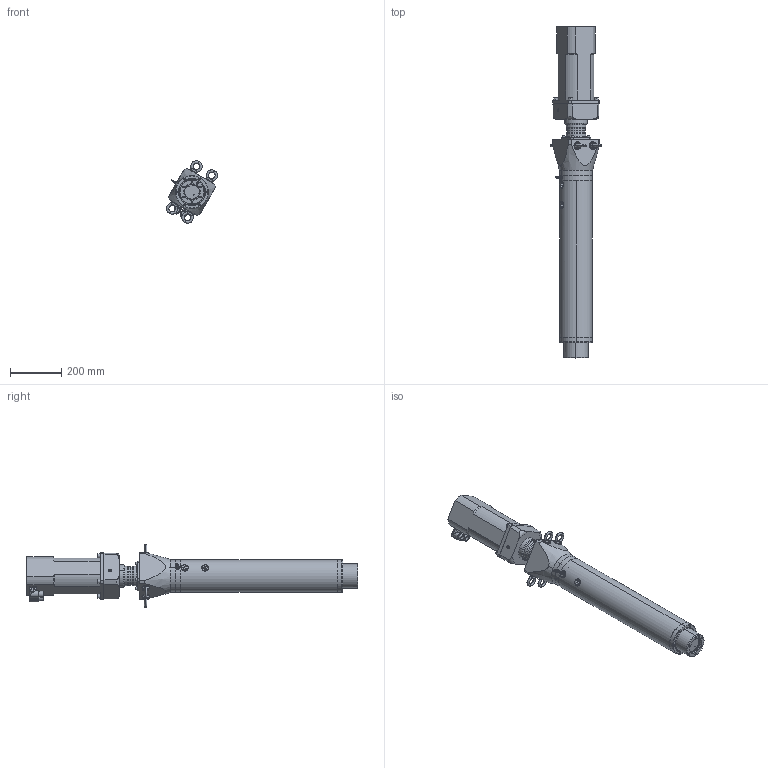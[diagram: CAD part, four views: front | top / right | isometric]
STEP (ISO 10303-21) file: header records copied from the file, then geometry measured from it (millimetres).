
FILE_DESCRIPTION (( 'STEP AP203' ), '1' );
FILE_NAME ('KM LN5I0300-035-025N.STEP', '2019-07-05T09:09:08', ( '' ), ( '' ), 'SwSTEP 2.0', 'SolidWorks 2016', '' );
FILE_SCHEMA (( 'CONFIG_CONTROL_DESIGN' ));
Length unit declared in the file: millimetre
Products named in the file (1): KM LN5I0300-035-025N
Bounding box: 200.61 x 1298.5 x 244.54 mm (x, y, z)
Volume: 13790096.1 mm3; surface area: 1386707.9 mm2
Topology: 36 solids, 36 shells, 2014 faces, 5003 edges, 3169 vertices
Faces by surface type: plane 1299, cylinder 431, cone 216, torus 48, bspline 18, sphere 2
Entity records: 60738 total; most frequent: CARTESIAN_POINT 12597, DIRECTION 9871, ORIENTED_EDGE 9770, EDGE_CURVE 4885, LINE 3641, VECTOR 3641, VERTEX_POINT 3169, AXIS2_PLACEMENT_3D 3115
